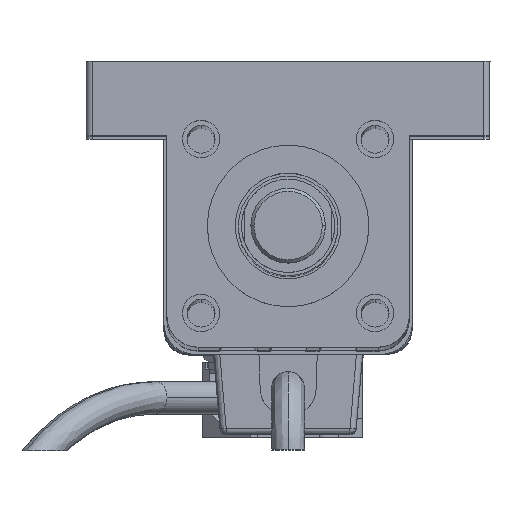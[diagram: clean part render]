
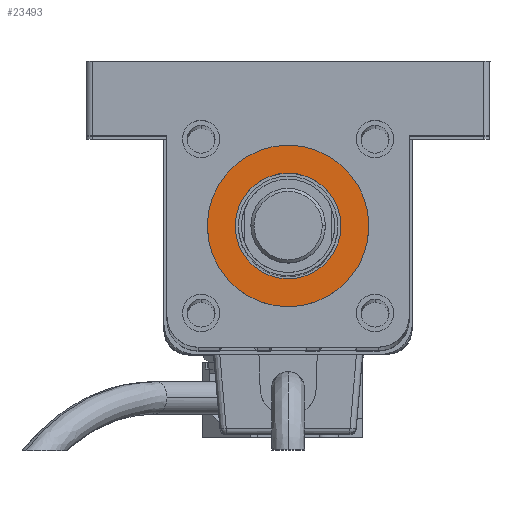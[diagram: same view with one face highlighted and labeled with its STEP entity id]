
A CAD part, top view. The second image highlights one B-rep face of the part: STEP entity #23493.
In plain terms, the highlighted planar face has unit normal (0, 0, 1) as drawn and (0, 0, -1) by its records, which use the part's own axes.
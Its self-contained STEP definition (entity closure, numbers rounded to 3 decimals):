
#1629 = EDGE_LOOP ( 'NONE', ( #5081, #5422 ) ) ;
#1819 = AXIS2_PLACEMENT_3D ( 'NONE', #14852, #19266, #14551 ) ;
#2482 = CARTESIAN_POINT ( 'NONE',  ( 19.5, -19.5, -3. ) ) ;
#2589 = CARTESIAN_POINT ( 'NONE',  ( 6.5, -19.5, -3. ) ) ;
#2591 = VERTEX_POINT ( 'NONE', #2611 ) ;
#2611 = CARTESIAN_POINT ( 'NONE',  ( 28., -19.5, -3. ) ) ;
#3277 = CARTESIAN_POINT ( 'NONE',  ( 32.5, -19.5, -3. ) ) ;
#3468 = AXIS2_PLACEMENT_3D ( 'NONE', #2482, #25023, #4915 ) ;
#3711 = PLANE ( 'NONE',  #11276 ) ;
#4915 = DIRECTION ( 'NONE',  ( -1., 0., 0. ) ) ;
#5081 = ORIENTED_EDGE ( 'NONE', *, *, #15391, .T. ) ;
#5422 = ORIENTED_EDGE ( 'NONE', *, *, #20589, .T. ) ;
#7742 = DIRECTION ( 'NONE',  ( -1., 0., 0. ) ) ;
#7955 = CARTESIAN_POINT ( 'NONE',  ( 19.5, -19.5, -3. ) ) ;
#8630 = AXIS2_PLACEMENT_3D ( 'NONE', #7955, #23718, #7742 ) ;
#9612 = FACE_OUTER_BOUND ( 'NONE', #1629, .T. ) ;
#11276 = AXIS2_PLACEMENT_3D ( 'NONE', #26260, #17289, #13036 ) ;
#11534 = CARTESIAN_POINT ( 'NONE',  ( 11., -19.5, -3. ) ) ;
#11625 = VERTEX_POINT ( 'NONE', #2589 ) ;
#12757 = CIRCLE ( 'NONE', #8630, 13. ) ;
#12835 = AXIS2_PLACEMENT_3D ( 'NONE', #17585, #17966, #22216 ) ;
#13036 = DIRECTION ( 'NONE',  ( -1., 0., 0. ) ) ;
#13496 = CIRCLE ( 'NONE', #12835, 8.5 ) ;
#14551 = DIRECTION ( 'NONE',  ( -1., 0., 0. ) ) ;
#14852 = CARTESIAN_POINT ( 'NONE',  ( 19.5, -19.5, -3. ) ) ;
#15391 = EDGE_CURVE ( 'NONE', #23808, #11625, #24211, .T. ) ;
#16220 = VERTEX_POINT ( 'NONE', #11534 ) ;
#17067 = CIRCLE ( 'NONE', #1819, 8.5 ) ;
#17289 = DIRECTION ( 'NONE',  ( 0., 0., -1. ) ) ;
#17585 = CARTESIAN_POINT ( 'NONE',  ( 19.5, -19.5, -3. ) ) ;
#17966 = DIRECTION ( 'NONE',  ( 0., 0., -1. ) ) ;
#18027 = FACE_BOUND ( 'NONE', #20419, .T. ) ;
#19259 = EDGE_CURVE ( 'NONE', #2591, #16220, #17067, .T. ) ;
#19266 = DIRECTION ( 'NONE',  ( 0., 0., -1. ) ) ;
#19509 = ORIENTED_EDGE ( 'NONE', *, *, #19259, .F. ) ;
#20419 = EDGE_LOOP ( 'NONE', ( #24132, #19509 ) ) ;
#20589 = EDGE_CURVE ( 'NONE', #11625, #23808, #12757, .T. ) ;
#22216 = DIRECTION ( 'NONE',  ( -1., 0., 0. ) ) ;
#23084 = EDGE_CURVE ( 'NONE', #16220, #2591, #13496, .T. ) ;
#23493 = ADVANCED_FACE ( 'NONE', ( #18027, #9612 ), #3711, .T. ) ;
#23718 = DIRECTION ( 'NONE',  ( 0., 0., -1. ) ) ;
#23808 = VERTEX_POINT ( 'NONE', #3277 ) ;
#24132 = ORIENTED_EDGE ( 'NONE', *, *, #23084, .F. ) ;
#24211 = CIRCLE ( 'NONE', #3468, 13. ) ;
#25023 = DIRECTION ( 'NONE',  ( 0., 0., -1. ) ) ;
#26260 = CARTESIAN_POINT ( 'NONE',  ( 19.5, -19.5, -3. ) ) ;
